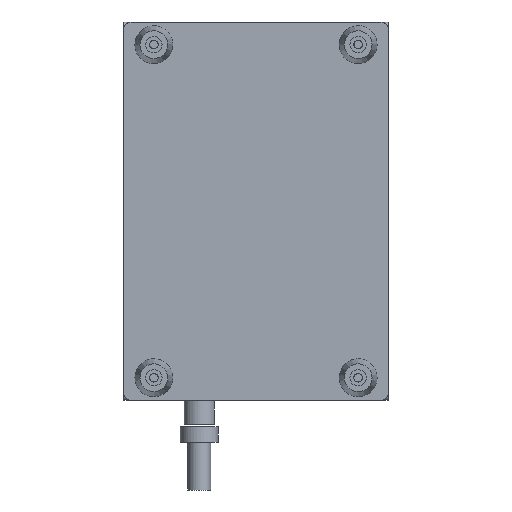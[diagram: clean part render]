
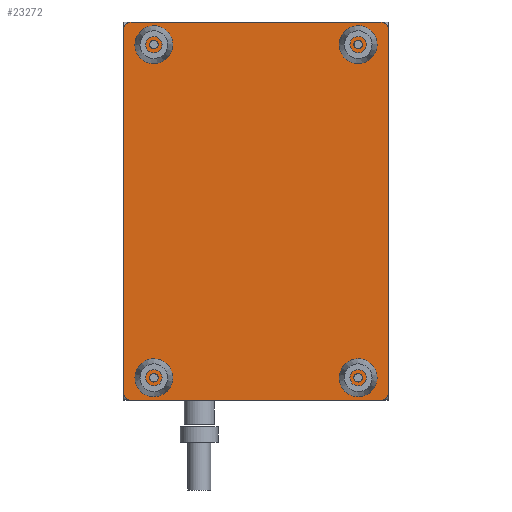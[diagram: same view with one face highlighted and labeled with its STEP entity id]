
A CAD part, front view. The second image highlights one B-rep face of the part: STEP entity #23272.
In plain terms, the highlighted planar face has unit normal (0, -1, 0).
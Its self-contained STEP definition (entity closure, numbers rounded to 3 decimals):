
#477 = EDGE_LOOP ( 'NONE', ( #36412 ) ) ;
#976 = AXIS2_PLACEMENT_3D ( 'NONE', #22514, #38637, #3454 ) ;
#1018 = ORIENTED_EDGE ( 'NONE', *, *, #20323, .F. ) ;
#1086 = CARTESIAN_POINT ( 'NONE',  ( 3., -51.5, -72. ) ) ;
#1647 = EDGE_CURVE ( 'NONE', #9073, #9073, #40001, .T. ) ;
#1747 = VERTEX_POINT ( 'NONE', #12226 ) ;
#2475 = VERTEX_POINT ( 'NONE', #41236 ) ;
#2700 = CIRCLE ( 'NONE', #19592, 3. ) ;
#3454 = DIRECTION ( 'NONE',  ( 1., 0., 0. ) ) ;
#3512 = CARTESIAN_POINT ( 'NONE',  ( 94.7, -51.5, -66. ) ) ;
#3628 = LINE ( 'NONE', #20147, #37898 ) ;
#3704 = CARTESIAN_POINT ( 'NONE',  ( 0., -51.5, -75. ) ) ;
#3897 = DIRECTION ( 'NONE',  ( 0., -1., 0. ) ) ;
#4050 = VECTOR ( 'NONE', #17375, 1000. ) ;
#4198 = EDGE_LOOP ( 'NONE', ( #28036 ) ) ;
#4457 = CARTESIAN_POINT ( 'NONE',  ( 0., -51.5, 75. ) ) ;
#4605 = CARTESIAN_POINT ( 'NONE',  ( 0., -51.5, 72. ) ) ;
#5038 = DIRECTION ( 'NONE',  ( 0., -1., 0. ) ) ;
#5160 = AXIS2_PLACEMENT_3D ( 'NONE', #29552, #12798, #28928 ) ;
#5411 = CIRCLE ( 'NONE', #29111, 3. ) ;
#5860 = ORIENTED_EDGE ( 'NONE', *, *, #28100, .T. ) ;
#6245 = FACE_BOUND ( 'NONE', #33703, .T. ) ;
#6657 = VERTEX_POINT ( 'NONE', #40372 ) ;
#6754 = VECTOR ( 'NONE', #13638, 1000. ) ;
#6829 = EDGE_LOOP ( 'NONE', ( #37540, #19923, #36665, #34210, #32381, #5860, #25871, #26193 ) ) ;
#6889 = DIRECTION ( 'NONE',  ( 1., 0., 0. ) ) ;
#7428 = DIRECTION ( 'NONE',  ( 0., -1., 0. ) ) ;
#7788 = DIRECTION ( 'NONE',  ( 1., 0., 0. ) ) ;
#8218 = DIRECTION ( 'NONE',  ( 1., 0., 0. ) ) ;
#8616 = DIRECTION ( 'NONE',  ( 0., -1., 0. ) ) ;
#8634 = DIRECTION ( 'NONE',  ( 0., -1., 0. ) ) ;
#8906 = LINE ( 'NONE', #9734, #37627 ) ;
#9073 = VERTEX_POINT ( 'NONE', #28590 ) ;
#9734 = CARTESIAN_POINT ( 'NONE',  ( 0., -51.5, -75. ) ) ;
#9778 = EDGE_CURVE ( 'NONE', #24105, #24105, #25318, .T. ) ;
#10204 = VERTEX_POINT ( 'NONE', #33271 ) ;
#10587 = DIRECTION ( 'NONE',  ( 1., 0., 0. ) ) ;
#11465 = CIRCLE ( 'NONE', #18917, 3. ) ;
#11830 = AXIS2_PLACEMENT_3D ( 'NONE', #23388, #3897, #17440 ) ;
#12226 = CARTESIAN_POINT ( 'NONE',  ( 102., -51.5, -75. ) ) ;
#12631 = DIRECTION ( 'NONE',  ( 0., -1., 0. ) ) ;
#12798 = DIRECTION ( 'NONE',  ( 0., -1., 0. ) ) ;
#12964 = CARTESIAN_POINT ( 'NONE',  ( 3., -51.5, -75. ) ) ;
#13638 = DIRECTION ( 'NONE',  ( 0., 0., 1. ) ) ;
#13712 = EDGE_CURVE ( 'NONE', #1747, #6657, #11465, .T. ) ;
#13839 = CARTESIAN_POINT ( 'NONE',  ( 105., -51.5, 72. ) ) ;
#14983 = CARTESIAN_POINT ( 'NONE',  ( 102., -51.5, 72. ) ) ;
#16087 = DIRECTION ( 'NONE',  ( -1., 0., 0. ) ) ;
#16158 = LINE ( 'NONE', #4457, #4050 ) ;
#16805 = FACE_BOUND ( 'NONE', #477, .T. ) ;
#16966 = DIRECTION ( 'NONE',  ( 1., 0., 0. ) ) ;
#17375 = DIRECTION ( 'NONE',  ( 1., 0., 0. ) ) ;
#17440 = DIRECTION ( 'NONE',  ( 1., 0., 0. ) ) ;
#17979 = EDGE_CURVE ( 'NONE', #2475, #2475, #26751, .T. ) ;
#18178 = CARTESIAN_POINT ( 'NONE',  ( 12.005, -51.5, 66. ) ) ;
#18917 = AXIS2_PLACEMENT_3D ( 'NONE', #35104, #12631, #6889 ) ;
#19169 = FACE_OUTER_BOUND ( 'NONE', #6829, .T. ) ;
#19311 = AXIS2_PLACEMENT_3D ( 'NONE', #20380, #7428, #16966 ) ;
#19592 = AXIS2_PLACEMENT_3D ( 'NONE', #40831, #8616, #7788 ) ;
#19923 = ORIENTED_EDGE ( 'NONE', *, *, #38395, .T. ) ;
#20147 = CARTESIAN_POINT ( 'NONE',  ( 105., -51.5, -75. ) ) ;
#20166 = EDGE_LOOP ( 'NONE', ( #20334 ) ) ;
#20323 = EDGE_CURVE ( 'NONE', #23626, #23626, #23342, .T. ) ;
#20334 = ORIENTED_EDGE ( 'NONE', *, *, #1647, .F. ) ;
#20354 = DIRECTION ( 'NONE',  ( 0., -1., 0. ) ) ;
#20380 = CARTESIAN_POINT ( 'NONE',  ( 93., -51.5, 66. ) ) ;
#20647 = CARTESIAN_POINT ( 'NONE',  ( 0., -51.5, -72. ) ) ;
#21568 = DIRECTION ( 'NONE',  ( 1., 0., 0. ) ) ;
#21982 = EDGE_CURVE ( 'NONE', #1747, #40011, #8906, .T. ) ;
#22514 = CARTESIAN_POINT ( 'NONE',  ( 12.005, -51.5, -66. ) ) ;
#23185 = FACE_BOUND ( 'NONE', #20166, .T. ) ;
#23272 = ADVANCED_FACE ( 'NONE', ( #32727, #23185, #16805, #6245, #19169 ), #29141, .T. ) ;
#23342 = CIRCLE ( 'NONE', #11830, 1.7 ) ;
#23388 = CARTESIAN_POINT ( 'NONE',  ( 93., -51.5, -66. ) ) ;
#23626 = VERTEX_POINT ( 'NONE', #3512 ) ;
#24105 = VERTEX_POINT ( 'NONE', #27696 ) ;
#25318 = CIRCLE ( 'NONE', #976, 1.7 ) ;
#25871 = ORIENTED_EDGE ( 'NONE', *, *, #21982, .F. ) ;
#26193 = ORIENTED_EDGE ( 'NONE', *, *, #13712, .T. ) ;
#26365 = CIRCLE ( 'NONE', #37207, 3. ) ;
#26751 = CIRCLE ( 'NONE', #19311, 1.7 ) ;
#27696 = CARTESIAN_POINT ( 'NONE',  ( 13.705, -51.5, -66. ) ) ;
#28036 = ORIENTED_EDGE ( 'NONE', *, *, #17979, .F. ) ;
#28042 = EDGE_CURVE ( 'NONE', #33162, #10204, #16158, .T. ) ;
#28100 = EDGE_CURVE ( 'NONE', #34003, #40011, #26365, .T. ) ;
#28522 = EDGE_CURVE ( 'NONE', #33162, #40982, #2700, .T. ) ;
#28590 = CARTESIAN_POINT ( 'NONE',  ( 13.705, -51.5, 66. ) ) ;
#28928 = DIRECTION ( 'NONE',  ( 1., 0., 0. ) ) ;
#29111 = AXIS2_PLACEMENT_3D ( 'NONE', #14983, #8634, #21568 ) ;
#29141 = PLANE ( 'NONE',  #5160 ) ;
#29506 = EDGE_CURVE ( 'NONE', #33952, #6657, #3628, .T. ) ;
#29509 = CARTESIAN_POINT ( 'NONE',  ( 3., -51.5, 75. ) ) ;
#29552 = CARTESIAN_POINT ( 'NONE',  ( 52.5, -51.5, 0. ) ) ;
#31514 = AXIS2_PLACEMENT_3D ( 'NONE', #18178, #5038, #8218 ) ;
#32381 = ORIENTED_EDGE ( 'NONE', *, *, #33959, .F. ) ;
#32727 = FACE_BOUND ( 'NONE', #4198, .T. ) ;
#32737 = LINE ( 'NONE', #3704, #6754 ) ;
#33162 = VERTEX_POINT ( 'NONE', #29509 ) ;
#33271 = CARTESIAN_POINT ( 'NONE',  ( 102., -51.5, 75. ) ) ;
#33703 = EDGE_LOOP ( 'NONE', ( #1018 ) ) ;
#33952 = VERTEX_POINT ( 'NONE', #13839 ) ;
#33959 = EDGE_CURVE ( 'NONE', #34003, #40982, #32737, .T. ) ;
#34003 = VERTEX_POINT ( 'NONE', #20647 ) ;
#34210 = ORIENTED_EDGE ( 'NONE', *, *, #28522, .T. ) ;
#35104 = CARTESIAN_POINT ( 'NONE',  ( 102., -51.5, -72. ) ) ;
#36412 = ORIENTED_EDGE ( 'NONE', *, *, #9778, .F. ) ;
#36665 = ORIENTED_EDGE ( 'NONE', *, *, #28042, .F. ) ;
#37207 = AXIS2_PLACEMENT_3D ( 'NONE', #1086, #20354, #10587 ) ;
#37540 = ORIENTED_EDGE ( 'NONE', *, *, #29506, .F. ) ;
#37627 = VECTOR ( 'NONE', #16087, 1000. ) ;
#37898 = VECTOR ( 'NONE', #38805, 1000. ) ;
#38395 = EDGE_CURVE ( 'NONE', #33952, #10204, #5411, .T. ) ;
#38637 = DIRECTION ( 'NONE',  ( 0., -1., 0. ) ) ;
#38805 = DIRECTION ( 'NONE',  ( 0., 0., -1. ) ) ;
#40001 = CIRCLE ( 'NONE', #31514, 1.7 ) ;
#40011 = VERTEX_POINT ( 'NONE', #12964 ) ;
#40372 = CARTESIAN_POINT ( 'NONE',  ( 105., -51.5, -72. ) ) ;
#40831 = CARTESIAN_POINT ( 'NONE',  ( 3., -51.5, 72. ) ) ;
#40982 = VERTEX_POINT ( 'NONE', #4605 ) ;
#41236 = CARTESIAN_POINT ( 'NONE',  ( 94.7, -51.5, 66. ) ) ;
